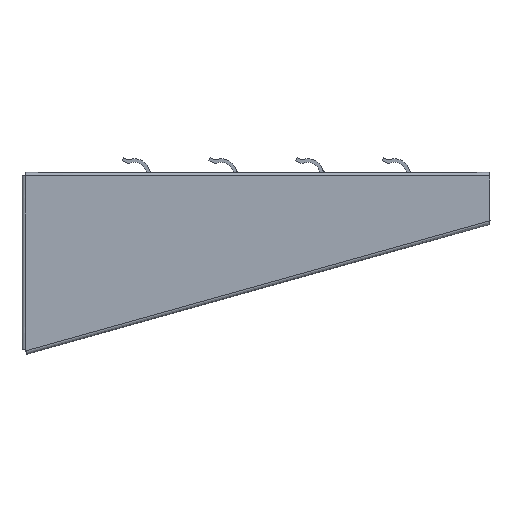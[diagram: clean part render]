
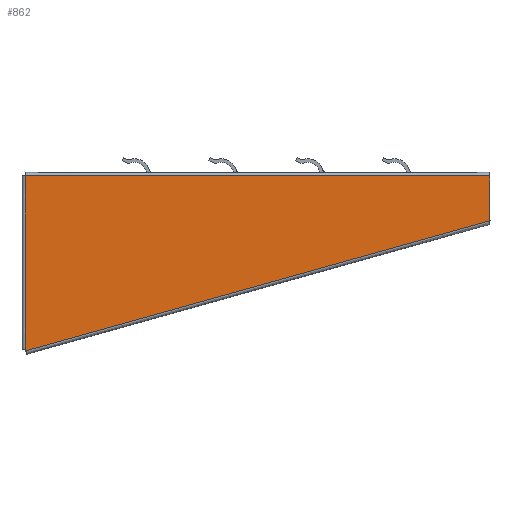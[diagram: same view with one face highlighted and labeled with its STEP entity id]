
A CAD part, left-side view. The second image highlights one B-rep face of the part: STEP entity #862.
In plain terms, the highlighted planar face has unit normal (-1, 0, 0).
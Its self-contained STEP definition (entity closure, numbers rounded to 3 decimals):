
#69=PLANE($,#2479);
#862=ADVANCED_FACE($,(#934),#69,.T.);
#934=FACE_OUTER_BOUND($,#1006,.T.);
#1006=EDGE_LOOP($,(#1272,#1273,#1274,#1275,#1276));
#1272=ORIENTED_EDGE($,*,*,#1618,.T.);
#1273=ORIENTED_EDGE($,*,*,#1617,.F.);
#1274=ORIENTED_EDGE($,*,*,#1614,.T.);
#1275=ORIENTED_EDGE($,*,*,#1615,.T.);
#1276=ORIENTED_EDGE($,*,*,#1616,.T.);
#1614=EDGE_CURVE($,#1957,#1956,#2253,.T.);
#1615=EDGE_CURVE($,#1956,#1958,#2254,.T.);
#1616=EDGE_CURVE($,#1958,#1959,#2362,.T.);
#1617=EDGE_CURVE($,#1957,#1960,#2255,.T.);
#1618=EDGE_CURVE($,#1959,#1960,#2363,.T.);
#1956=VERTEX_POINT($,#4167);
#1957=VERTEX_POINT($,#4168);
#1958=VERTEX_POINT($,#4169);
#1959=VERTEX_POINT($,#4170);
#1960=VERTEX_POINT($,#4171);
#2253=B_SPLINE_CURVE_WITH_KNOTS($,1,(#4150,#4151),.UNSPECIFIED.,.F.,.F.,
(2,2),(407.409,675.409),.UNSPECIFIED.);
#2254=B_SPLINE_CURVE_WITH_KNOTS($,1,(#4152,#4153),.UNSPECIFIED.,.F.,.F.,
(2,2),(0.,100.),.UNSPECIFIED.);
#2255=B_SPLINE_CURVE_WITH_KNOTS($,3,(#4158,#4159,#4160,#4161),.UNSPECIFIED.,
.F.,.F.,(4,4),(31.216,60.432),.UNSPECIFIED.);
#2362=(
BOUNDED_CURVE()
B_SPLINE_CURVE(3,(#4154,#4155,#4156,#4157),.UNSPECIFIED.,.F.,.F.)
B_SPLINE_CURVE_WITH_KNOTS((4,4),(5.,5.999),.UNSPECIFIED.)
CURVE()
GEOMETRIC_REPRESENTATION_ITEM()
RATIONAL_B_SPLINE_CURVE((1.,1.,1.,1.))
REPRESENTATION_ITEM($)
);
#2363=(
BOUNDED_CURVE()
B_SPLINE_CURVE(3,(#4162,#4163,#4164,#4165),.UNSPECIFIED.,.F.,.F.)
B_SPLINE_CURVE_WITH_KNOTS((4,4),(0.023,278.082),.UNSPECIFIED.)
CURVE()
GEOMETRIC_REPRESENTATION_ITEM()
RATIONAL_B_SPLINE_CURVE((1.,1.,1.,1.))
REPRESENTATION_ITEM($)
);
#2479=AXIS2_PLACEMENT_3D($,#4166,#2538,$);
#2538=DIRECTION($,(-1.,0.,0.));
#4150=CARTESIAN_POINT($,(-19.741,-521.532,-2.));
#4151=CARTESIAN_POINT($,(-19.741,-253.532,-2.));
#4152=CARTESIAN_POINT($,(-19.741,-253.532,-2.));
#4153=CARTESIAN_POINT($,(-19.741,-253.532,-102.));
#4154=CARTESIAN_POINT($,(-19.741,-253.532,-102.));
#4155=CARTESIAN_POINT($,(-19.741,-253.619,-102.322));
#4156=CARTESIAN_POINT($,(-19.741,-253.705,-102.643));
#4157=CARTESIAN_POINT($,(-19.741,-253.791,-102.965));
#4158=CARTESIAN_POINT($,(-19.741,-521.532,-2.));
#4159=CARTESIAN_POINT($,(-19.741,-521.533,-10.641));
#4160=CARTESIAN_POINT($,(-19.741,-521.533,-19.282));
#4161=CARTESIAN_POINT($,(-19.741,-521.533,-27.923));
#4162=CARTESIAN_POINT($,(-19.741,-253.791,-102.965));
#4163=CARTESIAN_POINT($,(-19.741,-343.038,-77.951));
#4164=CARTESIAN_POINT($,(-19.741,-432.285,-52.937));
#4165=CARTESIAN_POINT($,(-19.741,-521.533,-27.923));
#4166=CARTESIAN_POINT($,(-19.741,-521.532,-2.));
#4167=CARTESIAN_POINT($,(-19.741,-253.532,-2.));
#4168=CARTESIAN_POINT($,(-19.741,-521.532,-2.));
#4169=CARTESIAN_POINT($,(-19.741,-253.532,-102.));
#4170=CARTESIAN_POINT($,(-19.741,-253.791,-102.965));
#4171=CARTESIAN_POINT($,(-19.741,-521.533,-27.923));
